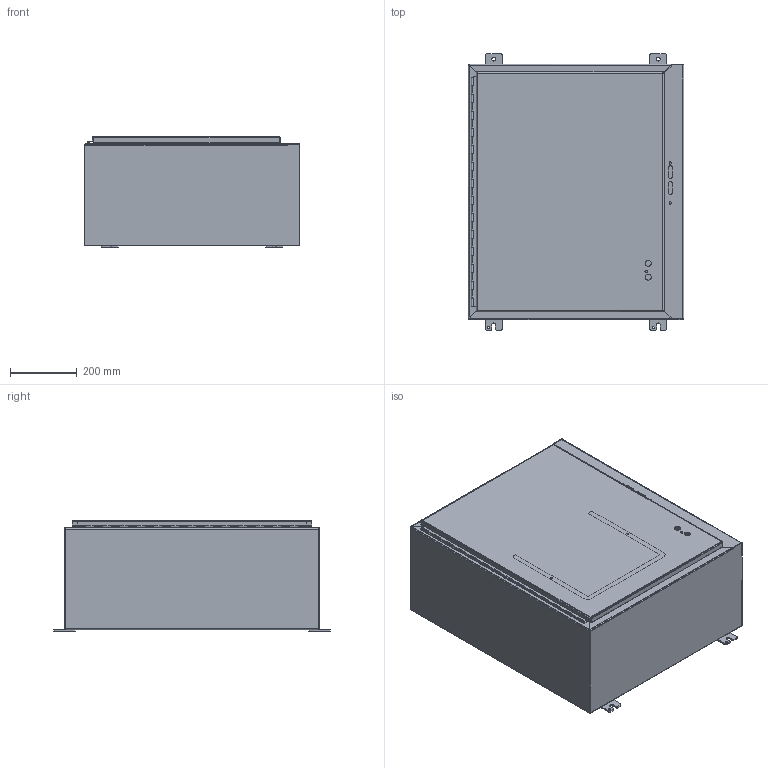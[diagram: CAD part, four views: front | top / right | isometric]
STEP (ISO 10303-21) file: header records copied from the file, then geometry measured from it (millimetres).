
FILE_DESCRIPTION (( 'STEP AP203' ), '1' );
FILE_NAME ('a30sa2612lp.STEP', '2008-05-02T17:19:41', ( '' ), ( '' ), 'SwSTEP 2.0', 'SolidWorks 2007', '' );
FILE_SCHEMA (( 'CONFIG_CONTROL_DESIGN' ));
Length unit declared in the file: inch
Products named in the file (13): A25EndTop_26x12; A25EndBot_26x12; A25DoorAssy_30x26; A25Door_30x26; a30sa2612lp; A25WmtBody_30x26x12; A25Body_30x26x12; 22118xxx_hinge_body_27in; 22110001_mtg_foot; 22112001_stud collar .375-16x1.00; Panel_Nema_A30P24; 22118xxx_hinge_door_27in; 23418001
Assembly tree (18 placements, depth 3):
  a30sa2612lp
    Panel_Nema_A30P24
    A25WmtBody_30x26x12
      22110001_mtg_foot  x4
      22112001_stud collar .375-16x1.00  x4
      A25EndTop_26x12
      A25EndBot_26x12
      A25Body_30x26x12
      22118xxx_hinge_body_27in
    A25DoorAssy_30x26
      22118xxx_hinge_door_27in
      23418001
      A25Door_30x26
Bounding box: 644.52 x 825.5 x 331.52 mm (x, y, z)
Volume: 4805529 mm3; surface area: 4942250.5 mm2
Topology: 16 solids, 16 shells, 787 faces, 2021 edges, 1276 vertices
Faces by surface type: plane 439, cylinder 260, cone 40, torus 34, bspline 10, sphere 4
Entity records: 22332 total; most frequent: CARTESIAN_POINT 4335, DIRECTION 3475, ORIENTED_EDGE 3418, EDGE_CURVE 1709, VECTOR 1207, LINE 1207, AXIS2_PLACEMENT_3D 1134, VERTEX_POINT 1076
